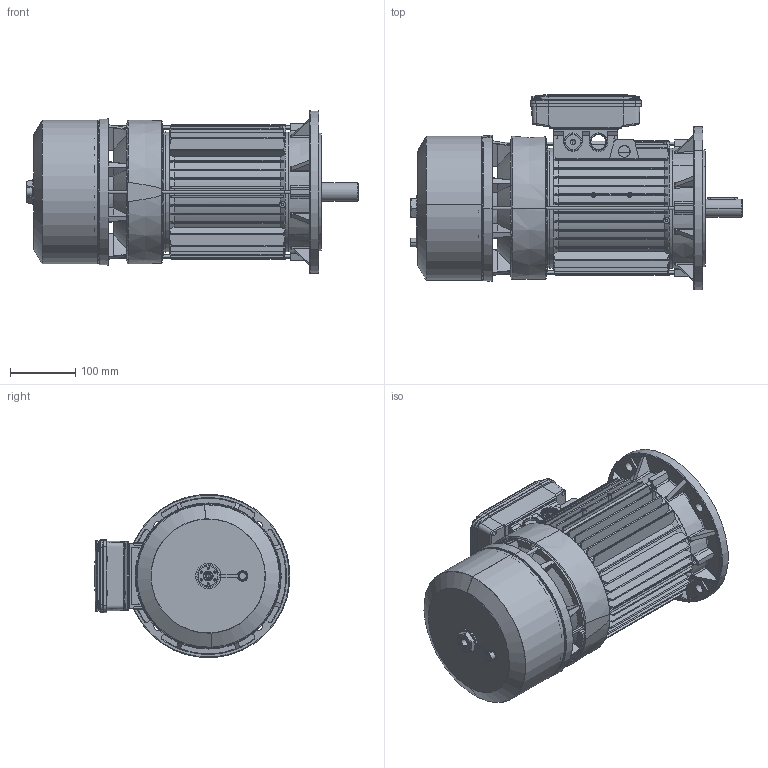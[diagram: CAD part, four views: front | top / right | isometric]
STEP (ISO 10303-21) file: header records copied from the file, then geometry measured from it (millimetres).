
FILE_DESCRIPTION (( 'STEP AP214' ), '1' );
FILE_NAME ('M02HB0010.STEP', '2018-10-29T10:08:05', ( '' ), ( '' ), 'SwSTEP 2.0', 'SolidWorks 2018', '' );
FILE_SCHEMA (( 'AUTOMOTIVE_DESIGN' ));
Length unit declared in the file: millimetre
Products named in the file (16): Albero BA 112; Carcassa 112 B5; M02HB0010; Guarnizione Coperchio Semplice Scatola BA 90 100 112 - DDAL0094; Scatola per Morsettiera Doppia 90-100-112 - Completa; Vite  a testa bombata M4x16; Coperchio per Scatola per Morsettiera Doppia 90-100-112; Scatola per Morsettiera Doppia 90-100-112; Tirante BA 112 - DBA60094; O-ring freno BA 112; Vite a Testa Esagona con foro e tappo 71-112 - Modificata; Scudo a flangia B5 Fi 250 BA-BM 112; Chiavetta 100-112; Cuffia serie BA 112; Convogliatore con pista di attrito P2 BA 112-6; Scudo Lato Freno BA 112 P1 - DFAE0094
Assembly tree (21 placements, depth 3):
  M02HB0010
    Carcassa 112 B5
    Albero BA 112
    Scudo Lato Freno BA 112 P1 - DFAE0094
    Convogliatore con pista di attrito P2 BA 112-6
    Cuffia serie BA 112
    Chiavetta 100-112
    Scudo a flangia B5 Fi 250 BA-BM 112
    Vite a Testa Esagona con foro e tappo 71-112 - Modificata
    O-ring freno BA 112
    Tirante BA 112 - DBA60094  x4
    Scatola per Morsettiera Doppia 90-100-112 - Completa
      Scatola per Morsettiera Doppia 90-100-112
      Coperchio per Scatola per Morsettiera Doppia 90-100-112
      Vite  a testa bombata M4x16  x4
      Guarnizione Coperchio Semplice Scatola BA 90 100 112 - DDAL0094
Bounding box: 507.68 x 298.52 x 249.05 mm (x, y, z)
Volume: 2784259.8 mm3; surface area: 1434787.3 mm2
Topology: 24 solids, 24 shells, 3274 faces, 8714 edges, 5485 vertices
Faces by surface type: plane 1039, cylinder 1015, cone 463, torus 441, bspline 316
Entity records: 118316 total; most frequent: CARTESIAN_POINT 42693, ORIENTED_EDGE 16220, DIRECTION 13776, EDGE_CURVE 8110, AXIS2_PLACEMENT_3D 5397, VERTEX_POINT 5161, EDGE_LOOP 3229, FACE_OUTER_BOUND 3022
